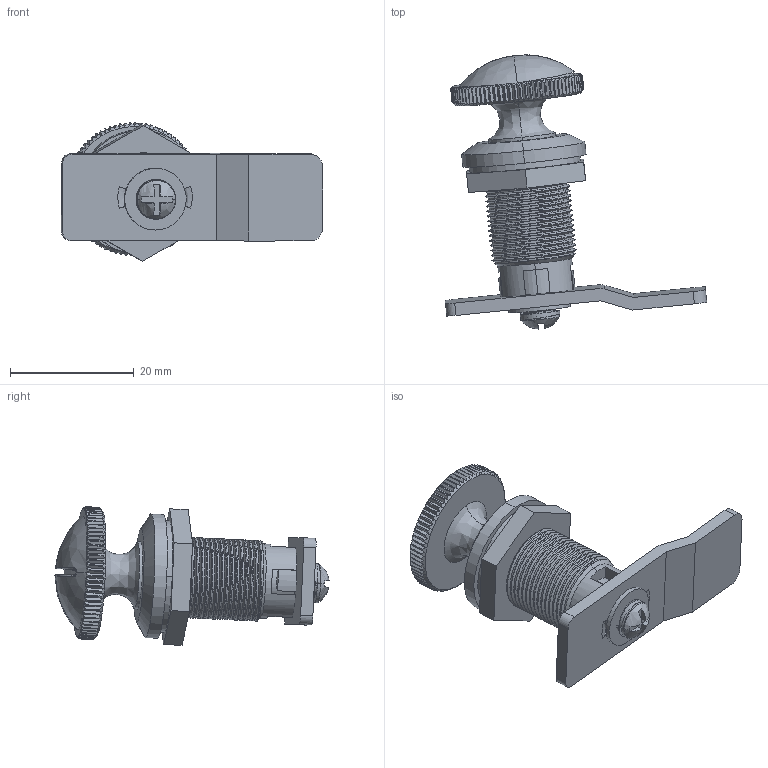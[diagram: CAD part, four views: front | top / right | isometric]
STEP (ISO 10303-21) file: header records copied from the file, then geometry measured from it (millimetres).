
FILE_DESCRIPTION (( 'STEP AP214' ), '1' );
FILE_NAME ('CUYUE.MS803.STEP', '2026-06-17T07:20:34', ( '' ), ( '' ), 'SwSTEP 2.0', 'SolidWorks 2020', '' );
FILE_SCHEMA (( 'AUTOMOTIVE_DESIGN' ));
Length unit declared in the file: millimetre
Products named in the file (11): washer_5; zu_asm_24_asm; CUYUE.MS803; spring_af0_9; gasket_6; spring_washer_5; S1K2702; screw_5; handle_171; housing_12; nut_m14_11
Assembly tree (10 placements, depth 3):
  CUYUE.MS803
    zu_asm_24_asm
      housing_12
      spring_af0_9
      handle_171
      gasket_6
      nut_m14_11
      washer_5
      spring_washer_5
      screw_5
    S1K2702
Bounding box: 42.21 x 44.3 x 22.4 mm (x, y, z)
Volume: 5641.9 mm3; surface area: 7893 mm2
Topology: 7 solids, 11 shells, 610 faces, 1775 edges, 1171 vertices
Faces by surface type: plane 292, cylinder 169, cone 92, bspline 57
Entity records: 35829 total; most frequent: CARTESIAN_POINT 20722, ORIENTED_EDGE 3489, DIRECTION 2507, EDGE_CURVE 1771, VERTEX_POINT 1171, AXIS2_PLACEMENT_3D 952, B_SPLINE_CURVE_WITH_KNOTS 772, EDGE_LOOP 628
